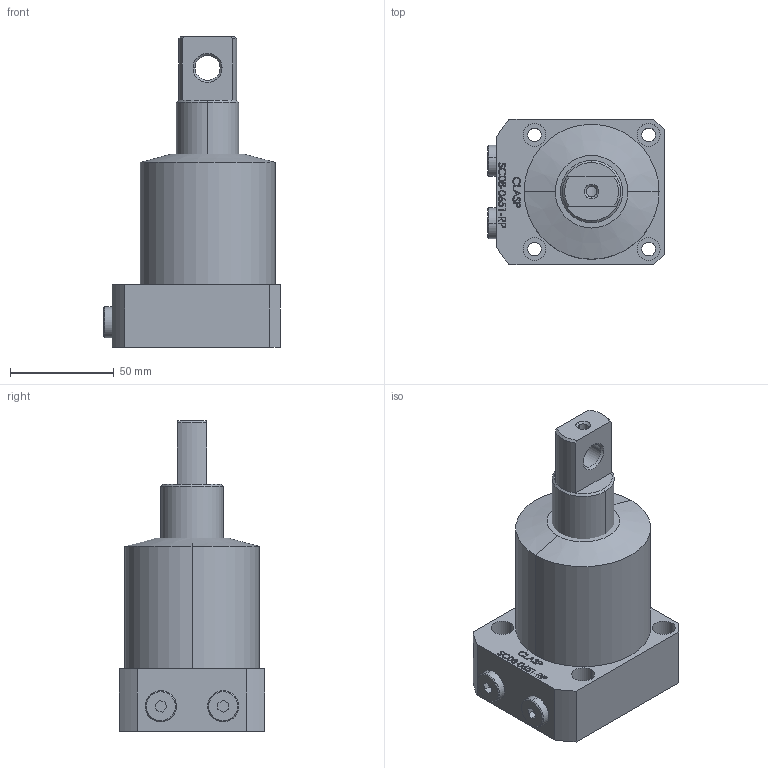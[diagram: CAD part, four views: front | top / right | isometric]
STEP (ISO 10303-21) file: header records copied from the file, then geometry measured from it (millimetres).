
FILE_DESCRIPTION (( 'STEP AP203' ), '1' );
FILE_NAME ('SC08-0651-RP.STEP', '2022-07-08T17:03:11', ( '' ), ( '' ), 'SwSTEP 2.0', 'SolidWorks 2017', '' );
FILE_SCHEMA (( 'CONFIG_CONTROL_DESIGN' ));
Length unit declared in the file: millimetre
Products named in the file (4): SC-08-0651-RP-05 plug; SC08-0651-RP; SC-08-0651-RP BODY; SC-08-0651-RP-Piston
Assembly tree (4 placements, depth 2):
  SC08-0651-RP
    SC-08-0651-RP BODY
    SC-08-0651-RP-Piston
    SC-08-0651-RP-05 plug  x2
Bounding box: 85 x 70 x 149.5 mm (x, y, z)
Volume: 406074.5 mm3; surface area: 46865.1 mm2
Topology: 4 solids, 4 shells, 334 faces, 830 edges, 546 vertices
Faces by surface type: plane 147, bspline 117, cylinder 50, cone 20
Entity records: 16588 total; most frequent: CARTESIAN_POINT 9199, ORIENTED_EDGE 1596, DIRECTION 1088, EDGE_CURVE 798, VERTEX_POINT 526, VECTOR 446, LINE 446, EDGE_LOOP 372
